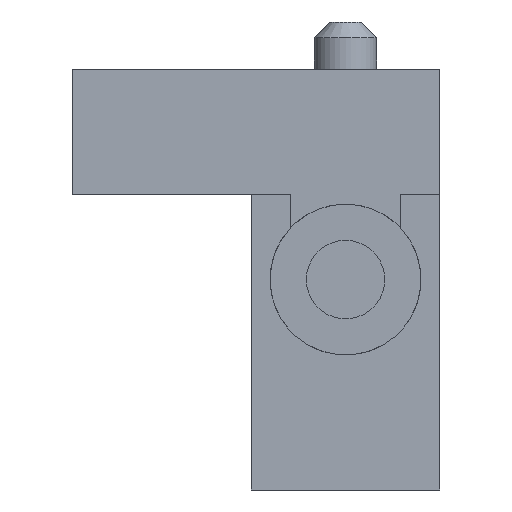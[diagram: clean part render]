
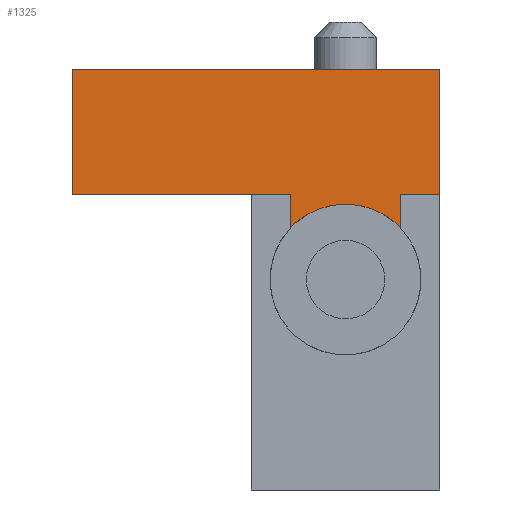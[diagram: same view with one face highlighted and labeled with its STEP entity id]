
A CAD part, front view. The second image highlights one B-rep face of the part: STEP entity #1325.
In plain terms, the highlighted planar face has unit normal (0, -1, 0).
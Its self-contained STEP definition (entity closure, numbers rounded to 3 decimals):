
#157 = EDGE_LOOP ( 'NONE', ( #1691, #1692, #1693, #1694, #1695, #1696, #1697, #1698, #1699 ) ) ;
#187 = AXIS2_PLACEMENT_3D ( 'NONE', #2043, #1998, #1997 ) ;
#202 = AXIS2_PLACEMENT_3D ( 'NONE', #2010, #1211, #1220 ) ;
#286 = CARTESIAN_POINT ( 'NONE',  ( 3., -10.5, 5.7 ) ) ;
#311 = CARTESIAN_POINT ( 'NONE',  ( 0., -10.5, 5.4 ) ) ;
#315 = CARTESIAN_POINT ( 'NONE',  ( 1.75, -10.5, 4.642 ) ) ;
#320 = VERTEX_POINT ( 'NONE', #440 ) ;
#345 = VERTEX_POINT ( 'NONE', #315 ) ;
#347 = VERTEX_POINT ( 'NONE', #311 ) ;
#369 = VERTEX_POINT ( 'NONE', #286 ) ;
#380 = VERTEX_POINT ( 'NONE', #1821 ) ;
#381 = VERTEX_POINT ( 'NONE', #1820 ) ;
#393 = VERTEX_POINT ( 'NONE', #1796 ) ;
#397 = VERTEX_POINT ( 'NONE', #1786 ) ;
#421 = VERTEX_POINT ( 'NONE', #1725 ) ;
#440 = CARTESIAN_POINT ( 'NONE',  ( -1.75, -10.5, 4.642 ) ) ;
#452 = EDGE_CURVE ( 'NONE', #381, #380, #1503, .T. ) ;
#464 = AXIS2_PLACEMENT_3D ( 'NONE', #1092, #1091, #1089 ) ;
#491 = EDGE_CURVE ( 'NONE', #369, #397, #1884, .T. ) ;
#512 = EDGE_CURVE ( 'NONE', #369, #393, #1920, .T. ) ;
#513 = EDGE_CURVE ( 'NONE', #345, #347, #1527, .T. ) ;
#515 = EDGE_CURVE ( 'NONE', #393, #421, #1919, .T. ) ;
#567 = EDGE_CURVE ( 'NONE', #345, #397, #708, .T. ) ;
#621 = EDGE_CURVE ( 'NONE', #381, #320, #1400, .T. ) ;
#625 = EDGE_CURVE ( 'NONE', #347, #320, #1410, .T. ) ;
#628 = EDGE_CURVE ( 'NONE', #380, #421, #1413, .T. ) ;
#708 = LINE ( 'NONE', #1261, #709 ) ;
#709 = VECTOR ( 'NONE', #1260, 1000. ) ;
#1087 = DIRECTION ( 'NONE',  ( -1., 0., 0. ) ) ;
#1088 = CARTESIAN_POINT ( 'NONE',  ( 9.403, -10.5, 9.7 ) ) ;
#1089 = DIRECTION ( 'NONE',  ( 0., 0., -1. ) ) ;
#1091 = DIRECTION ( 'NONE',  ( 0., -1., 0. ) ) ;
#1092 = CARTESIAN_POINT ( 'NONE',  ( 0., -10.5, 3. ) ) ;
#1093 = DIRECTION ( 'NONE',  ( 0., 0., 1. ) ) ;
#1094 = CARTESIAN_POINT ( 'NONE',  ( 3., -10.5, 5.7 ) ) ;
#1097 = DIRECTION ( 'NONE',  ( -1., 0., 0. ) ) ;
#1211 = DIRECTION ( 'NONE',  ( 0., -1., 0. ) ) ;
#1220 = DIRECTION ( 'NONE',  ( 0., 0., -1. ) ) ;
#1260 = DIRECTION ( 'NONE',  ( 0., 0., 1. ) ) ;
#1261 = CARTESIAN_POINT ( 'NONE',  ( 1.75, -10.5, 9.7 ) ) ;
#1325 = ADVANCED_FACE ( 'NONE', ( #1435 ), #2005, .T. ) ;
#1400 = LINE ( 'NONE', #2031, #1401 ) ;
#1401 = VECTOR ( 'NONE', #2030, 1000. ) ;
#1410 = CIRCLE ( 'NONE', #187, 2.4 ) ;
#1413 = LINE ( 'NONE', #1981, #1414 ) ;
#1414 = VECTOR ( 'NONE', #2000, 1000. ) ;
#1435 = FACE_OUTER_BOUND ( 'NONE', #157, .T. ) ;
#1501 = VECTOR ( 'NONE', #1811, 1000. ) ;
#1503 = LINE ( 'NONE', #1823, #1501 ) ;
#1527 = CIRCLE ( 'NONE', #464, 2.4 ) ;
#1691 = ORIENTED_EDGE ( 'NONE', *, *, #515, .T. ) ;
#1692 = ORIENTED_EDGE ( 'NONE', *, *, #628, .F. ) ;
#1693 = ORIENTED_EDGE ( 'NONE', *, *, #452, .F. ) ;
#1694 = ORIENTED_EDGE ( 'NONE', *, *, #621, .T. ) ;
#1695 = ORIENTED_EDGE ( 'NONE', *, *, #625, .F. ) ;
#1696 = ORIENTED_EDGE ( 'NONE', *, *, #513, .F. ) ;
#1697 = ORIENTED_EDGE ( 'NONE', *, *, #567, .T. ) ;
#1698 = ORIENTED_EDGE ( 'NONE', *, *, #491, .F. ) ;
#1699 = ORIENTED_EDGE ( 'NONE', *, *, #512, .T. ) ;
#1715 = CARTESIAN_POINT ( 'NONE',  ( 9.403, -10.5, 5.7 ) ) ;
#1725 = CARTESIAN_POINT ( 'NONE',  ( -8.7, -10.5, 9.7 ) ) ;
#1786 = CARTESIAN_POINT ( 'NONE',  ( 1.75, -10.5, 5.7 ) ) ;
#1796 = CARTESIAN_POINT ( 'NONE',  ( 3., -10.5, 9.7 ) ) ;
#1811 = DIRECTION ( 'NONE',  ( -1., 0., 0. ) ) ;
#1820 = CARTESIAN_POINT ( 'NONE',  ( -1.75, -10.5, 5.7 ) ) ;
#1821 = CARTESIAN_POINT ( 'NONE',  ( -8.7, -10.5, 5.7 ) ) ;
#1823 = CARTESIAN_POINT ( 'NONE',  ( 9.403, -10.5, 5.7 ) ) ;
#1884 = LINE ( 'NONE', #1715, #1886 ) ;
#1886 = VECTOR ( 'NONE', #1097, 1000. ) ;
#1904 = VECTOR ( 'NONE', #1087, 1000. ) ;
#1919 = LINE ( 'NONE', #1088, #1904 ) ;
#1920 = LINE ( 'NONE', #1094, #1921 ) ;
#1921 = VECTOR ( 'NONE', #1093, 1000. ) ;
#1981 = CARTESIAN_POINT ( 'NONE',  ( -8.7, -10.5, 5.7 ) ) ;
#1997 = DIRECTION ( 'NONE',  ( 0., 0., -1. ) ) ;
#1998 = DIRECTION ( 'NONE',  ( 0., -1., 0. ) ) ;
#2000 = DIRECTION ( 'NONE',  ( 0., 0., 1. ) ) ;
#2005 = PLANE ( 'NONE',  #202 ) ;
#2010 = CARTESIAN_POINT ( 'NONE',  ( 9.403, -10.5, 5.7 ) ) ;
#2030 = DIRECTION ( 'NONE',  ( 0., 0., -1. ) ) ;
#2031 = CARTESIAN_POINT ( 'NONE',  ( -1.75, -10.5, 9.7 ) ) ;
#2043 = CARTESIAN_POINT ( 'NONE',  ( 0., -10.5, 3. ) ) ;
